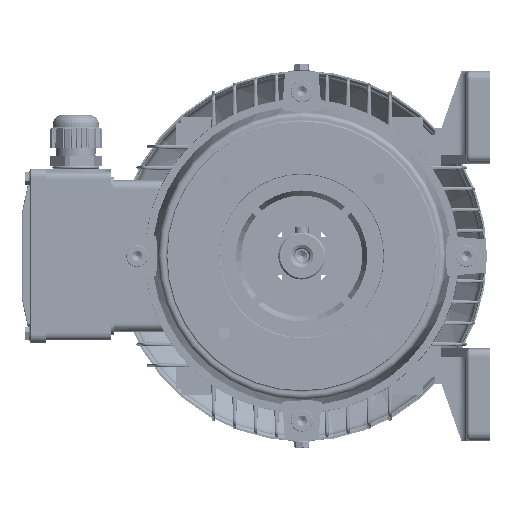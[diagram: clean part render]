
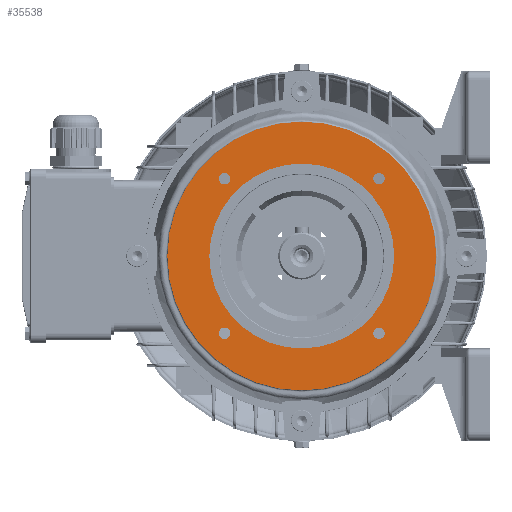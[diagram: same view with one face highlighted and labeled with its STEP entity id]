
A CAD part, left-side view. The second image highlights one B-rep face of the part: STEP entity #35538.
In plain terms, the highlighted planar face has unit normal (-1, 0, 0).
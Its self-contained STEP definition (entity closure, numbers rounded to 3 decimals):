
#740 = DIRECTION ( 'NONE',  ( 0., 0., -1. ) ) ;
#874 = EDGE_CURVE ( 'NONE', #45837, #102190, #53722, .T. ) ;
#1020 = DIRECTION ( 'NONE',  ( 0., 0., -1. ) ) ;
#1963 = CIRCLE ( 'NONE', #102969, 3.4 ) ;
#2453 = CARTESIAN_POINT ( 'NONE',  ( -16., 45.962, 45.962 ) ) ;
#3816 = ORIENTED_EDGE ( 'NONE', *, *, #95386, .T. ) ;
#5361 = DIRECTION ( 'NONE',  ( 0., 0., -1. ) ) ;
#7941 = FACE_BOUND ( 'NONE', #122116, .T. ) ;
#9068 = ORIENTED_EDGE ( 'NONE', *, *, #76303, .T. ) ;
#9810 = CARTESIAN_POINT ( 'NONE',  ( -16., -45.962, 42.562 ) ) ;
#10474 = CARTESIAN_POINT ( 'NONE',  ( -16., 0., -55. ) ) ;
#11950 = CARTESIAN_POINT ( 'NONE',  ( -16., 45.962, 45.962 ) ) ;
#13311 = CARTESIAN_POINT ( 'NONE',  ( -16., 45.962, -42.562 ) ) ;
#13810 = CARTESIAN_POINT ( 'NONE',  ( -16., 45.962, -45.962 ) ) ;
#13962 = DIRECTION ( 'NONE',  ( 0., 0., -1. ) ) ;
#16637 = AXIS2_PLACEMENT_3D ( 'NONE', #67988, #57407, #5361 ) ;
#20998 = EDGE_CURVE ( 'NONE', #87909, #114883, #96886, .T. ) ;
#21340 = VERTEX_POINT ( 'NONE', #119717 ) ;
#23716 = CIRCLE ( 'NONE', #43759, 3.4 ) ;
#24180 = CARTESIAN_POINT ( 'NONE',  ( -16., 45.962, 49.362 ) ) ;
#28749 = DIRECTION ( 'NONE',  ( 1., 0., 0. ) ) ;
#29475 = CARTESIAN_POINT ( 'NONE',  ( -16., 0., 0. ) ) ;
#31683 = EDGE_CURVE ( 'NONE', #114883, #87909, #96579, .T. ) ;
#33755 = AXIS2_PLACEMENT_3D ( 'NONE', #2453, #55437, #13962 ) ;
#33887 = CARTESIAN_POINT ( 'NONE',  ( -16., 0., -80. ) ) ;
#35004 = DIRECTION ( 'NONE',  ( 0., 0., -1. ) ) ;
#35538 = ADVANCED_FACE ( 'NONE', ( #7941, #82173, #50752, #126960, #75483, #133632 ), #53408, .F. ) ;
#37269 = AXIS2_PLACEMENT_3D ( 'NONE', #136559, #117055, #740 ) ;
#38246 = CARTESIAN_POINT ( 'NONE',  ( -16., -45.962, -49.362 ) ) ;
#39081 = CARTESIAN_POINT ( 'NONE',  ( -16., 45.962, -45.962 ) ) ;
#40792 = VERTEX_POINT ( 'NONE', #46438 ) ;
#42301 = EDGE_LOOP ( 'NONE', ( #3816, #9068 ) ) ;
#43759 = AXIS2_PLACEMENT_3D ( 'NONE', #96539, #64087, #1020 ) ;
#44103 = CARTESIAN_POINT ( 'NONE',  ( -16., 0., 0. ) ) ;
#44255 = AXIS2_PLACEMENT_3D ( 'NONE', #39081, #113492, #80653 ) ;
#44276 = CIRCLE ( 'NONE', #16637, 3.4 ) ;
#44397 = CARTESIAN_POINT ( 'NONE',  ( -16., -45.962, -42.562 ) ) ;
#45837 = VERTEX_POINT ( 'NONE', #10474 ) ;
#46438 = CARTESIAN_POINT ( 'NONE',  ( -16., -45.962, 49.362 ) ) ;
#50752 = FACE_BOUND ( 'NONE', #42301, .T. ) ;
#51435 = ORIENTED_EDGE ( 'NONE', *, *, #64193, .T. ) ;
#51498 = AXIS2_PLACEMENT_3D ( 'NONE', #11950, #96898, #75999 ) ;
#53408 = PLANE ( 'NONE',  #83785 ) ;
#53722 = CIRCLE ( 'NONE', #92024, 55. ) ;
#54538 = EDGE_LOOP ( 'NONE', ( #132539, #134485 ) ) ;
#55437 = DIRECTION ( 'NONE',  ( 1., 0., 0. ) ) ;
#55562 = AXIS2_PLACEMENT_3D ( 'NONE', #44103, #128338, #86217 ) ;
#57407 = DIRECTION ( 'NONE',  ( 1., 0., 0. ) ) ;
#59815 = CARTESIAN_POINT ( 'NONE',  ( -16., 45.962, -49.362 ) ) ;
#61269 = DIRECTION ( 'NONE',  ( 0., 0., 1. ) ) ;
#62692 = ORIENTED_EDGE ( 'NONE', *, *, #119946, .T. ) ;
#64087 = DIRECTION ( 'NONE',  ( 1., 0., 0. ) ) ;
#64193 = EDGE_CURVE ( 'NONE', #82328, #135473, #118814, .T. ) ;
#67935 = ORIENTED_EDGE ( 'NONE', *, *, #20998, .T. ) ;
#67988 = CARTESIAN_POINT ( 'NONE',  ( -16., -45.962, 45.962 ) ) ;
#69374 = AXIS2_PLACEMENT_3D ( 'NONE', #91182, #28749, #80932 ) ;
#70969 = DIRECTION ( 'NONE',  ( -1., 0., 0. ) ) ;
#71632 = VERTEX_POINT ( 'NONE', #44397 ) ;
#71881 = DIRECTION ( 'NONE',  ( 0., 0., 1. ) ) ;
#72782 = DIRECTION ( 'NONE',  ( 0., 0., 1. ) ) ;
#75483 = FACE_OUTER_BOUND ( 'NONE', #107216, .T. ) ;
#75655 = CIRCLE ( 'NONE', #69374, 3.4 ) ;
#75999 = DIRECTION ( 'NONE',  ( 0., 0., -1. ) ) ;
#76303 = EDGE_CURVE ( 'NONE', #71632, #103298, #23716, .T. ) ;
#77586 = AXIS2_PLACEMENT_3D ( 'NONE', #134939, #114494, #61269 ) ;
#80653 = DIRECTION ( 'NONE',  ( 0., 0., -1. ) ) ;
#80932 = DIRECTION ( 'NONE',  ( 0., 0., -1. ) ) ;
#82173 = FACE_BOUND ( 'NONE', #111764, .T. ) ;
#82328 = VERTEX_POINT ( 'NONE', #59815 ) ;
#83785 = AXIS2_PLACEMENT_3D ( 'NONE', #106159, #127458, #96445 ) ;
#86217 = DIRECTION ( 'NONE',  ( 0., 0., 1. ) ) ;
#86983 = ORIENTED_EDGE ( 'NONE', *, *, #100420, .T. ) ;
#87909 = VERTEX_POINT ( 'NONE', #103844 ) ;
#89243 = CARTESIAN_POINT ( 'NONE',  ( -16., 0., 55. ) ) ;
#89430 = EDGE_CURVE ( 'NONE', #40792, #120978, #75655, .T. ) ;
#91182 = CARTESIAN_POINT ( 'NONE',  ( -16., -45.962, 45.962 ) ) ;
#92024 = AXIS2_PLACEMENT_3D ( 'NONE', #114953, #103433, #72782 ) ;
#95386 = EDGE_CURVE ( 'NONE', #103298, #71632, #134193, .T. ) ;
#96445 = DIRECTION ( 'NONE',  ( 0., 0., -1. ) ) ;
#96539 = CARTESIAN_POINT ( 'NONE',  ( -16., -45.962, -45.962 ) ) ;
#96579 = CIRCLE ( 'NONE', #55562, 80. ) ;
#96886 = CIRCLE ( 'NONE', #77586, 80. ) ;
#96898 = DIRECTION ( 'NONE',  ( 1., 0., 0. ) ) ;
#98324 = DIRECTION ( 'NONE',  ( 1., 0., 0. ) ) ;
#99910 = CIRCLE ( 'NONE', #33755, 3.4 ) ;
#100420 = EDGE_CURVE ( 'NONE', #117770, #21340, #114555, .T. ) ;
#101506 = EDGE_CURVE ( 'NONE', #135473, #82328, #1963, .T. ) ;
#102190 = VERTEX_POINT ( 'NONE', #89243 ) ;
#102969 = AXIS2_PLACEMENT_3D ( 'NONE', #13810, #98324, #35004 ) ;
#103298 = VERTEX_POINT ( 'NONE', #38246 ) ;
#103433 = DIRECTION ( 'NONE',  ( -1., 0., 0. ) ) ;
#103844 = CARTESIAN_POINT ( 'NONE',  ( -16., 0., 80. ) ) ;
#105227 = ORIENTED_EDGE ( 'NONE', *, *, #89430, .T. ) ;
#106159 = CARTESIAN_POINT ( 'NONE',  ( -16., 55., 0. ) ) ;
#107216 = EDGE_LOOP ( 'NONE', ( #67935, #127091 ) ) ;
#111764 = EDGE_LOOP ( 'NONE', ( #132380, #105227 ) ) ;
#113492 = DIRECTION ( 'NONE',  ( 1., 0., 0. ) ) ;
#114494 = DIRECTION ( 'NONE',  ( -1., 0., 0. ) ) ;
#114555 = CIRCLE ( 'NONE', #51498, 3.4 ) ;
#114883 = VERTEX_POINT ( 'NONE', #33887 ) ;
#114953 = CARTESIAN_POINT ( 'NONE',  ( -16., 0., 0. ) ) ;
#117055 = DIRECTION ( 'NONE',  ( 1., 0., 0. ) ) ;
#117770 = VERTEX_POINT ( 'NONE', #24180 ) ;
#117898 = CIRCLE ( 'NONE', #133949, 55. ) ;
#118814 = CIRCLE ( 'NONE', #44255, 3.4 ) ;
#119717 = CARTESIAN_POINT ( 'NONE',  ( -16., 45.962, 42.562 ) ) ;
#119946 = EDGE_CURVE ( 'NONE', #21340, #117770, #99910, .T. ) ;
#120978 = VERTEX_POINT ( 'NONE', #9810 ) ;
#122116 = EDGE_LOOP ( 'NONE', ( #62692, #86983 ) ) ;
#122164 = EDGE_LOOP ( 'NONE', ( #51435, #128224 ) ) ;
#126960 = FACE_BOUND ( 'NONE', #122164, .T. ) ;
#127091 = ORIENTED_EDGE ( 'NONE', *, *, #31683, .T. ) ;
#127270 = EDGE_CURVE ( 'NONE', #120978, #40792, #44276, .T. ) ;
#127458 = DIRECTION ( 'NONE',  ( 1., 0., 0. ) ) ;
#128224 = ORIENTED_EDGE ( 'NONE', *, *, #101506, .T. ) ;
#128338 = DIRECTION ( 'NONE',  ( -1., 0., 0. ) ) ;
#132380 = ORIENTED_EDGE ( 'NONE', *, *, #127270, .T. ) ;
#132539 = ORIENTED_EDGE ( 'NONE', *, *, #134255, .F. ) ;
#133632 = FACE_BOUND ( 'NONE', #54538, .T. ) ;
#133949 = AXIS2_PLACEMENT_3D ( 'NONE', #29475, #70969, #71881 ) ;
#134193 = CIRCLE ( 'NONE', #37269, 3.4 ) ;
#134255 = EDGE_CURVE ( 'NONE', #102190, #45837, #117898, .T. ) ;
#134485 = ORIENTED_EDGE ( 'NONE', *, *, #874, .F. ) ;
#134939 = CARTESIAN_POINT ( 'NONE',  ( -16., 0., 0. ) ) ;
#135473 = VERTEX_POINT ( 'NONE', #13311 ) ;
#136559 = CARTESIAN_POINT ( 'NONE',  ( -16., -45.962, -45.962 ) ) ;
